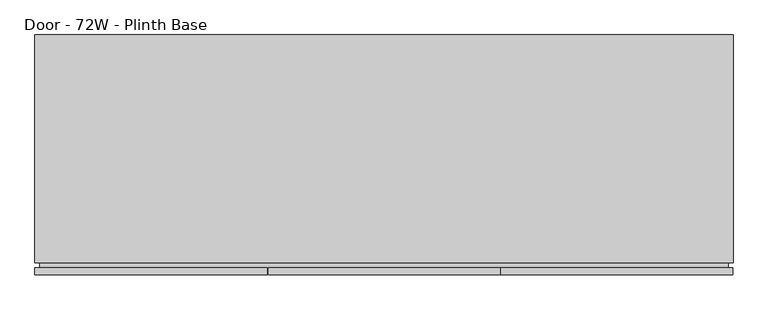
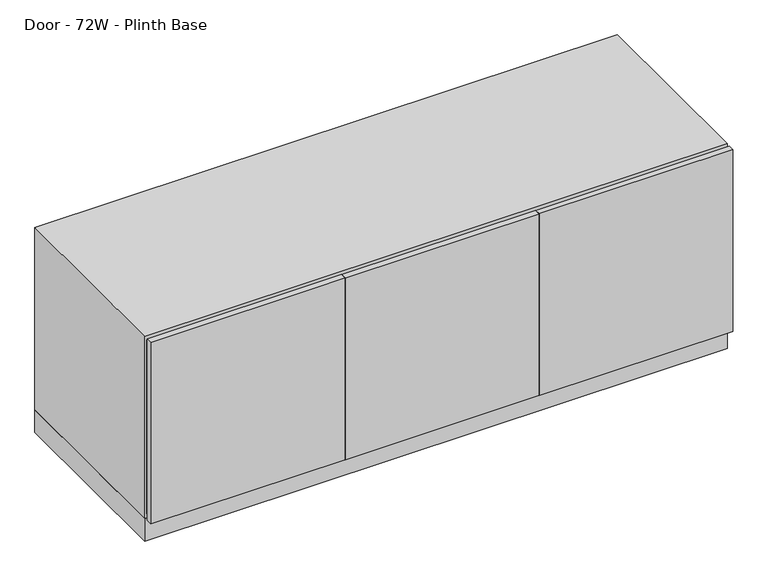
"""IFC4 building model written with IfcOpenShell, lengths in millimetres: furniture geometry, Steelcase Coalesse - Exponents - Storage - Credenza - 27H : Door - 72W - Plinth Base."""

from ifc_helpers import new_model, si_unit, point, frame, frame_2d, origin, origin_with_axes, place, context, project, spatial, polyline, circle_curve, trimmed, segment, composite_curve, outline, extrude, faceted_brep, source, transform, mapped, element, save


def door_72w_plinth_base_44e7c84e(model_context):
    return source(origin(), model_context, "Body", "SolidModel", [
        faceted_brep([(6.35, 31.75, 673.1), (6.35, 31.75, 95.25), (6.35, 622.3, 95.25), (6.35, 622.3, 673.1), (1822.45, 622.3, 95.25), (1822.45, 622.3, 673.1), (1822.45, 31.75, 95.25), (1822.45, 31.75, 673.1), (0.0, 31.75, 82.55), (1828.8, 31.75, 82.55), (1828.8, 31.75, 685.8), (0.0, 31.75, 685.8), (1828.8, 628.65, 82.55), (1828.8, 628.65, 685.8), (0.0, 628.65, 82.55), (0.0, 628.65, 685.8)], [[[0, 1, 2, 3]], [[3, 2, 4, 5]], [[5, 4, 6, 7]], [[8, 9, 10, 11], [7, 6, 1, 0]], [[10, 9, 12, 13]], [[13, 12, 14, 15]], [[15, 14, 8, 11]], [[7, 0, 3, 5]], [[10, 13, 15, 11]], [[1, 6, 4, 2]], [[12, 9, 8, 14]]]),
        extrude(outline(polyline([(673.1, 1816.1), (673.1, 12.7), (95.25, 12.7), (95.25, 1816.1), (673.1, 1816.1)]), holes=[polyline([(666.75, 1809.75), (101.6, 1809.75), (101.6, 19.05), (666.75, 19.05), (666.75, 1809.75)])]), frame((0.0, 19.05, 0.0), z_axis=(0.0, 1.0, 0.0), x_axis=(0.0, 0.0, 1.0)), (0.0, 0.0, 1.0), 31.75),
        extrude(outline(composite_curve([segment(trimmed(circle_curve(frame_2d((19.05, 593.5667033)), 6.35), [point((12.7, 593.5667033))], [point((25.4, 593.5667033))], False, "CARTESIAN"), True, "CONTINUOUS"), segment(trimmed(circle_curve(frame_2d((19.05, 593.5667033)), 6.35), [point((25.4, 593.5667033))], [point((12.7, 593.5667033))], False, "CARTESIAN"), True, "CONTINUOUS")], self_intersect=False)), origin_with_axes(), (0.0, 0.0, 1.0), 6.35),
        extrude(outline(composite_curve([segment(trimmed(circle_curve(frame_2d((19.05, 66.7867854)), 6.35), [point((12.7, 66.7867854))], [point((25.4, 66.7867854))], False, "CARTESIAN"), True, "CONTINUOUS"), segment(trimmed(circle_curve(frame_2d((19.05, 66.7867854)), 6.35), [point((25.4, 66.7867854))], [point((12.7, 66.7867854))], False, "CARTESIAN"), True, "CONTINUOUS")], self_intersect=False)), origin_with_axes(), (0.0, 0.0, 1.0), 6.35),
        extrude(outline(composite_curve([segment(trimmed(circle_curve(frame_2d((1809.75, 593.5667033)), 6.35), [point((1803.4, 593.5667033))], [point((1816.1, 593.5667033))], False, "CARTESIAN"), True, "CONTINUOUS"), segment(trimmed(circle_curve(frame_2d((1809.75, 593.5667033)), 6.35), [point((1816.1, 593.5667033))], [point((1803.4, 593.5667033))], False, "CARTESIAN"), True, "CONTINUOUS")], self_intersect=False)), origin_with_axes(), (0.0, 0.0, 1.0), 6.35),
        extrude(outline(composite_curve([segment(trimmed(circle_curve(frame_2d((1809.75, 66.7867854)), 6.35), [point((1803.4, 66.7867854))], [point((1816.1, 66.7867854))], False, "CARTESIAN"), True, "CONTINUOUS"), segment(trimmed(circle_curve(frame_2d((1809.75, 66.7867854)), 6.35), [point((1816.1, 66.7867854))], [point((1803.4, 66.7867854))], False, "CARTESIAN"), True, "CONTINUOUS")], self_intersect=False)), origin_with_axes(), (0.0, 0.0, 1.0), 6.35),
        extrude(outline(polyline([(1827.8348, 19.05), (1827.8348, 0.0), (1220.0128, 0.0), (1220.0128, 19.05), (1827.8348, 19.05)])), frame((0.0, 0.0, 82.55), z_axis=(0.0, 0.0, 1.0), x_axis=(1.0, 0.0, 0.0)), (0.0, 0.0, 1.0), 603.25),
        extrude(outline(polyline([(1218.4126, 19.05), (1218.4126, 0.0), (610.5652, 0.0), (610.5652, 19.05), (1218.4126, 19.05)])), frame((0.0, 0.0, 82.55), z_axis=(0.0, 0.0, 1.0), x_axis=(1.0, 0.0, 0.0)), (0.0, 0.0, 1.0), 603.25),
        extrude(outline(polyline([(608.965, 19.05), (608.965, 0.0), (0.0, 0.0), (0.0, 19.05), (608.965, 19.05)])), frame((0.0, 0.0, 82.55), z_axis=(0.0, 0.0, 1.0), x_axis=(1.0, 0.0, 0.0)), (0.0, 0.0, 1.0), 603.25),
        extrude(outline(polyline([(0.0, -19.05), (0.0, 0.0), (31.75, 0.0), (31.75, -19.05), (0.0, -19.05)])), frame((1209.675, 19.05, 101.6), z_axis=(3.1477043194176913e-12, 0.0, 1.0), x_axis=(0.0, 1.0, 0.0)), (0.0, 0.0, 1.0), 565.15),
        extrude(outline(polyline([(0.0, -19.05), (0.0, 0.0), (31.75, 0.0), (31.75, -19.05), (0.0, -19.05)])), frame((590.55, 19.05, 101.6), z_axis=(3.3608671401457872e-12, 0.0, 1.0), x_axis=(0.0, 1.0, 0.0)), (0.0, 0.0, 1.0), 565.15),
        extrude(outline(polyline([(1209.675, 609.6), (1228.725, 609.6), (1228.725, 50.8), (1209.675, 50.8), (1209.675, 609.6)])), frame((0.0, 0.0, 95.25), z_axis=(0.0, 0.0, 1.0), x_axis=(1.0, 0.0, 0.0)), (0.0, 0.0, 1.0), 577.85),
        extrude(outline(polyline([(1209.675, 50.8), (609.6, 50.8), (609.6, 609.6), (1209.675, 609.6), (1209.675, 50.8)])), frame((0.0, 0.0, 371.475), z_axis=(0.0, 0.0, 1.0), x_axis=(1.0, 0.0, 0.0)), (0.0, 0.0, 1.0), 19.05),
        extrude(outline(polyline([(1828.8, 628.65), (1828.8, 31.75), (0.0, 31.75), (0.0, 628.65), (1828.8, 628.65)]), holes=[polyline([(1809.75, 622.3), (19.05, 622.3), (19.05, 38.1), (1809.75, 38.1), (1809.75, 622.3)])]), frame((0.0, 0.0, 6.35), z_axis=(0.0, 0.0, 1.0), x_axis=(1.0, 0.0, 0.0)), (0.0, 0.0, 1.0), 73.4568),
        extrude(outline(polyline([(590.55, 609.6), (609.6, 609.6), (609.6, 50.8), (590.55, 50.8), (590.55, 609.6)])), frame((0.0, 0.0, 95.25), z_axis=(0.0, 0.0, 1.0), x_axis=(1.0, 0.0, 0.0)), (0.0, 0.0, 1.0), 577.85),
    ])


if __name__ == "__main__":
    model = new_model("IFC4")
    model_context = context("Model", 3, world=origin())
    ifc_project = project(units=[si_unit("LENGTHUNIT", "METRE", prefix="MILLI")], contexts=[model_context])
    site = spatial("IfcSite", under=ifc_project)
    building = spatial("IfcBuilding", under=site)
    placement = place(None, origin())
    door_72w_plinth_base_shape = door_72w_plinth_base_44e7c84e(model_context)
    element("IfcFurniture", 1, ObjectType="Steelcase Coalesse - Exponents - Storage - Credenza - 27H : Door - 72W - Plinth Base", at=placement, inside=building, context=model_context, shape_type="MappedRepresentation", body=[
        mapped(door_72w_plinth_base_shape, transform((0.0, 0.0, 0.0), x_axis=(1.0, 0.0, 0.0), y_axis=(0.0, 1.0, 0.0), z_axis=(0.0, 0.0, 1.0))),
    ])
    save(model, "model.ifc")
